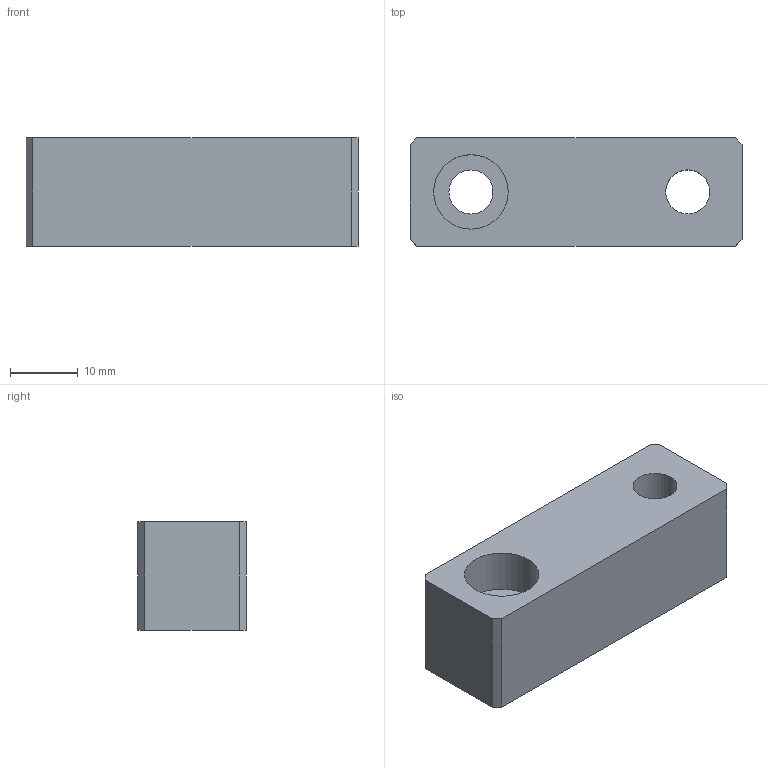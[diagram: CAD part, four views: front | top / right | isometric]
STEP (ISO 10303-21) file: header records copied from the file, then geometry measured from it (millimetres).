
FILE_DESCRIPTION(('CATIA V5 STEP Exchange'),'2;1');
FILE_NAME('G:\够快云库\系统集成开发部\1.部门成员\孙国\工装\气密检测工装\STP\轻卡悬浮阀\GZ-QKQM06_V1 气缸连接块.stp','2021-08-26T03:05:48+00:00',('none'),('none'),'CATIA Version 5 Release 20 GA (IN-10)','CATIA V5 STEP AP214','none');
FILE_SCHEMA(('AUTOMOTIVE_DESIGN { 1 0 10303 214 1 1 1 1 }'));
Length unit declared in the file: millimetre
Products named in the file (1): 气缸连接块
Bounding box: 49 x 16 x 16 mm (x, y, z)
Volume: 10263.2 mm3; surface area: 4372.3 mm2
Topology: 1 solids, 1 shells, 20 faces, 48 edges, 32 vertices
Faces by surface type: plane 12, cylinder 8
Entity records: 582 total; most frequent: CARTESIAN_POINT 97, ORIENTED_EDGE 96, DIRECTION 80, EDGE_CURVE 48, AXIS2_PLACEMENT_3D 33, VECTOR 32, LINE 32, VERTEX_POINT 32
